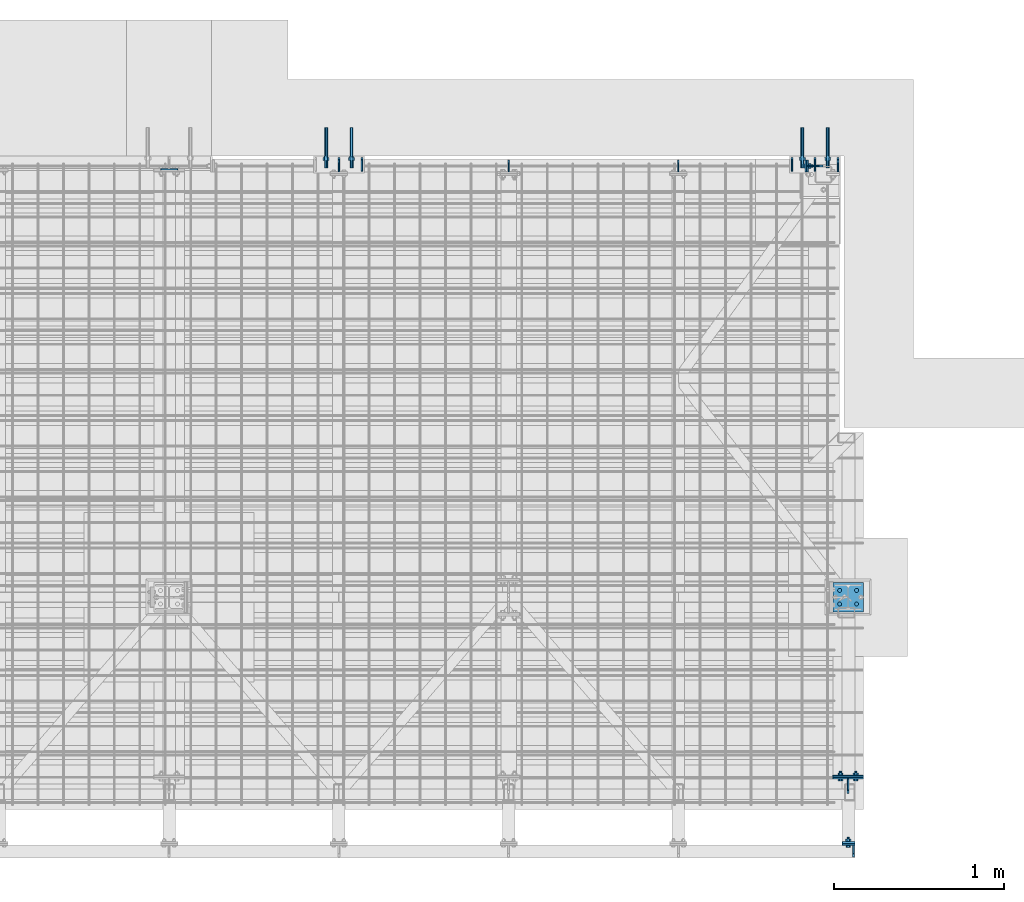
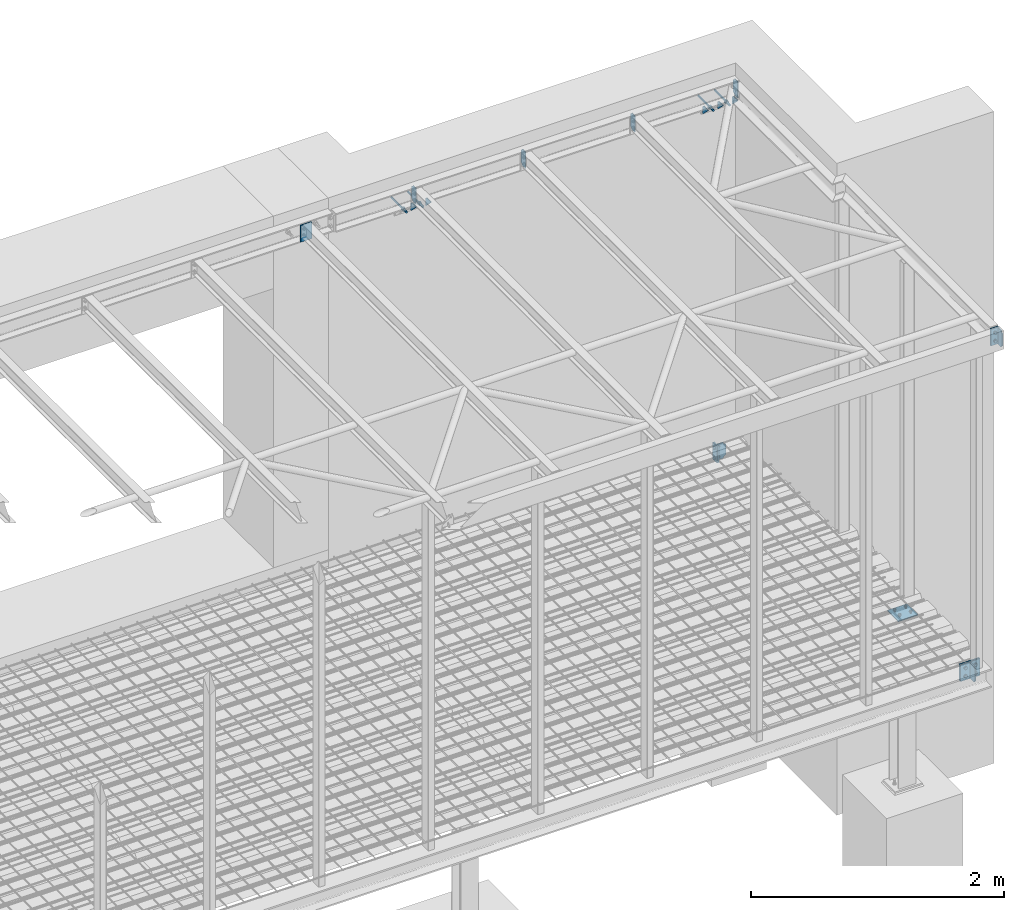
# One storey, part 25 of 26: 20 discrete accessories, 6 mechanical fasteners, 11 elements without a shape of their own.
"""IFC2X3 building model written with IfcOpenShell, lengths in millimetres."""

from ifc_helpers import new_model, si_unit, frame, frame_2d, origin_with_axes, origin_2d_with_axis, place, context, subcontext, project, spatial, polyline, circle_curve, parameter, trimmed, segment, composite_curve, circle, outline, extrude, source, transform, mapped, material, type_object, element, aggregate, save


model = new_model("IFC2X3")

# Units and contexts
model_context = context("Model", 3, precision=1e-05, world=origin_with_axes())
body_context = subcontext(model_context, "Body", "Model", "MODEL_VIEW")
ifc_project = project(units=[si_unit("LENGTHUNIT", "METRE", prefix="MILLI"), si_unit("AREAUNIT", "SQUARE_METRE"), si_unit("VOLUMEUNIT", "CUBIC_METRE"), si_unit("MASSUNIT", "GRAM", prefix="KILO"), si_unit("TIMEUNIT", "SECOND"), si_unit("PLANEANGLEUNIT", "RADIAN"), si_unit("SOLIDANGLEUNIT", "STERADIAN"), si_unit("THERMODYNAMICTEMPERATUREUNIT", "DEGREE_CELSIUS"), si_unit("LUMINOUSINTENSITYUNIT", "LUMEN")], contexts=[model_context])

# Site, building, storey
site_placement = place(None, origin_with_axes())
site = spatial("IfcSite", under=ifc_project, at=site_placement, Name="Undefined", CompositionType="ELEMENT")
building_placement = place(site_placement, origin_with_axes())
building = spatial("IfcBuilding", under=site, at=building_placement, Name="Undefined", CompositionType="ELEMENT")
storey_placement = place(building_placement, origin_with_axes())
storey = spatial("IfcBuildingStorey", under=building, at=storey_placement, Name="Undefined", CompositionType="ELEMENT", Elevation=0.0)

# Assembly, mechanical fastener
assembly_1_placement = place(storey_placement, origin_with_axes())
assembly_1 = element("IfcElementAssembly", 1, at=assembly_1_placement, inside=storey, Name="Steel Assembly", AssemblyPlace="NOTDEFINED", PredefinedType="RIGID_FRAME")
ifc_material_1 = material(Name="Undefined")
discrete_accessory_type_1 = type_object("IfcDiscreteAccessoryType", Name="Bolt assembly")
shared_shape_1 = source(origin_with_axes(), body_context, "Body", "SweptSolid", [
    extrude(circle(Radius=9.0, at=origin_2d_with_axis()), frame((0.0, -0.1, 0.0), z_axis=(0.0, 1.0, 0.0), x_axis=(1.0, 0.0, 0.0)), (0.0, 0.0, 1.0), 10.1),
    extrude(circle(Radius=9.0, at=origin_2d_with_axis()), frame((0.0, -9.9, 0.0), z_axis=(0.0, 1.0, 0.0), x_axis=(1.0, 0.0, 0.0)), (0.0, 0.0, 1.0), 10.0),
    extrude(outline(polyline([(13.85640646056, 0.0), (6.92820323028, 12.0000000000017), (-6.92820323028, 12.0000000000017), (-13.85640646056, 0.0), (-6.92820323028, -12.0000000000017), (6.92820323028, -12.0000000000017), (13.85640646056, 0.0)])), frame((0.0, -23.0, 0.0), z_axis=(0.0, 1.0, 0.0), x_axis=(1.0, 0.0, 0.0)), (0.0, 0.0, 1.0), 10.0),
    extrude(circle(Radius=8.0, at=origin_2d_with_axis()), frame((0.0, -13.0, 0.0), z_axis=(0.0, 1.0, 0.0), x_axis=(1.0, 0.0, 0.0)), (0.0, 0.0, 1.0), 50.0),
    extrude(circle(Radius=15.0, at=origin_2d_with_axis()), frame((0.0, -13.0, 0.0), z_axis=(0.0, 1.0, 0.0), x_axis=(1.0, 0.0, 0.0)), (0.0, 0.0, 1.0), 3.0),
    extrude(circle(Radius=15.0, at=origin_2d_with_axis()), frame((0.0, 10.0, 0.0), z_axis=(0.0, 1.0, 0.0), x_axis=(1.0, 0.0, 0.0)), (0.0, 0.0, 1.0), 3.0),
    extrude(outline(polyline([(15.4441197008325, 0.0), (7.72205985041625, 13.3750000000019), (-7.72205985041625, 13.3750000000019), (-15.4441197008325, 0.0), (-7.72205985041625, -13.3750000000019), (7.72205985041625, -13.3750000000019), (15.4441197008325, 0.0)])), frame((0.0, 13.0, 0.0), z_axis=(0.0, 1.0, 0.0), x_axis=(1.0, 0.0, 0.0)), (0.0, 0.0, 1.0), 13.0),
])
mechanical_fastener_1_placement = place(assembly_1_placement, frame((16005.0, 200.0, -250.0), z_axis=(0.0, 0.0, 1.0), x_axis=(1.0, 0.0, 0.0)))
mechanical_fastener_1 = element("IfcMechanicalFastener", 2, at=mechanical_fastener_1_placement, type_object=discrete_accessory_type_1, material=ifc_material_1, Name="Bolt assembly", NominalDiameter=16.0, NominalLength=50.0, context=body_context, shape_type="MappedRepresentation", body=[
    mapped(shared_shape_1, transform((0.0, 0.0, -40.0))),
    mapped(shared_shape_1, transform((90.0, 0.0, -40.0))),
    mapped(shared_shape_1, transform((0.0, 0.0, 40.0))),
    mapped(shared_shape_1, transform((90.0, 0.0, 40.0))),
])

# Assembly, discrete accessories
assembly_2_placement = place(storey_placement, origin_with_axes())
assembly_2 = element("IfcElementAssembly", 3, at=assembly_2_placement, inside=storey, Name="Steel Assembly", AssemblyPlace="NOTDEFINED", PredefinedType="RIGID_FRAME")
ifc_material_2 = material(Name="STEEL/S235JR")
discrete_accessory_type_2 = type_object("IfcDiscreteAccessoryType", Name="PLECH")
discrete_accessory_1_placement = place(assembly_2_placement, frame((13050.0, 3770.0, 3110.0), z_axis=(-1.0, 0.0, 0.0), x_axis=(0.0, 1.0, 0.0)))
discrete_accessory_1 = element("IfcDiscreteAccessory", 4, at=discrete_accessory_1_placement, type_object=discrete_accessory_type_2, material=ifc_material_2, Name="PLECH", ObjectType="PL8*80", context=body_context, shape_type="SweptSolid", body=[
    extrude(outline(composite_curve([segment(polyline([(0.0, 0.0), (65.0, 0.0)]), True, "CONTINUOUS"), segment(trimmed(circle_curve(frame_2d((80.0, 0.0), x_axis=(-1.0, 0.0)), 15.0), [parameter(0.0)], [parameter(4.71238898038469)], False, "PARAMETER"), True, "CONTINUOUS"), segment(polyline([(80.0, 15.0), (80.0, 80.0), (70.0, 80.0), (0.0, 10.0), (0.0, 0.0)]), True, "DISCONTINUOUS")], self_intersect=False)), frame((0.0, 0.0, -4.0), z_axis=(0.0, 0.0, 1.0), x_axis=(1.0, 0.0, 0.0)), (0.0, 0.0, 1.0), 8.0),
])
discrete_accessory_2_placement = place(assembly_2_placement, frame((13186.0, 3770.0, 3110.0), z_axis=(-1.0, 0.0, 0.0), x_axis=(0.0, 1.0, 0.0)))
discrete_accessory_2 = element("IfcDiscreteAccessory", 5, at=discrete_accessory_2_placement, type_object=discrete_accessory_type_2, material=ifc_material_2, Name="PLECH", ObjectType="PL8*80", context=body_context, shape_type="SweptSolid", body=[
    extrude(outline(composite_curve([segment(polyline([(0.0, 0.0), (65.0, 0.0)]), True, "CONTINUOUS"), segment(trimmed(circle_curve(frame_2d((80.0, 0.0), x_axis=(-1.0, 0.0)), 15.0), [parameter(0.0)], [parameter(4.71238898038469)], False, "PARAMETER"), True, "CONTINUOUS"), segment(polyline([(80.0, 15.0), (80.0, 80.0), (70.0, 80.0), (0.0, 10.0), (0.0, 0.0)]), True, "DISCONTINUOUS")], self_intersect=False)), frame((0.0, 0.0, -4.0), z_axis=(0.0, 0.0, 1.0), x_axis=(1.0, 0.0, 0.0)), (0.0, 0.0, 1.0), 8.0),
])

assembly_3_placement = place(storey_placement, origin_with_axes())
assembly_3 = element("IfcElementAssembly", 6, at=assembly_3_placement, inside=storey, Name="Steel Assembly", AssemblyPlace="NOTDEFINED", PredefinedType="RIGID_FRAME")
discrete_accessory_3_placement = place(assembly_3_placement, frame((15855.0, 3770.0, 3110.0), z_axis=(-1.0, 0.0, 0.0), x_axis=(0.0, 1.0, 0.0)))
discrete_accessory_3 = element("IfcDiscreteAccessory", 7, at=discrete_accessory_3_placement, type_object=discrete_accessory_type_2, material=ifc_material_2, Name="PLECH", ObjectType="PL8*80", context=body_context, shape_type="SweptSolid", body=[
    extrude(outline(composite_curve([segment(polyline([(0.0, 0.0), (65.0, 0.0)]), True, "CONTINUOUS"), segment(trimmed(circle_curve(frame_2d((80.0, 0.0), x_axis=(-1.0, 0.0)), 15.0), [parameter(0.0)], [parameter(4.71238898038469)], False, "PARAMETER"), True, "CONTINUOUS"), segment(polyline([(80.0, 15.0), (80.0, 80.0), (70.0, 80.0), (0.0, 10.0), (0.0, 0.0)]), True, "DISCONTINUOUS")], self_intersect=False)), frame((0.0, 0.0, -4.0), z_axis=(0.0, 0.0, 1.0), x_axis=(1.0, 0.0, 0.0)), (0.0, 0.0, 1.0), 8.0),
])
discrete_accessory_4_placement = place(assembly_3_placement, frame((15991.0, 3770.0, 3110.0), z_axis=(-1.0, 0.0, 0.0), x_axis=(0.0, 1.0, 0.0)))
discrete_accessory_4 = element("IfcDiscreteAccessory", 8, at=discrete_accessory_4_placement, type_object=discrete_accessory_type_2, material=ifc_material_2, Name="PLECH", ObjectType="PL8*80", context=body_context, shape_type="SweptSolid", body=[
    extrude(outline(composite_curve([segment(polyline([(0.0, 0.0), (65.0, 0.0)]), True, "CONTINUOUS"), segment(trimmed(circle_curve(frame_2d((80.0, 0.0), x_axis=(-1.0, 0.0)), 15.0), [parameter(0.0)], [parameter(4.71238898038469)], False, "PARAMETER"), True, "CONTINUOUS"), segment(polyline([(80.0, 15.0), (80.0, 80.0), (70.0, 80.0), (0.0, 10.0), (0.0, 0.0)]), True, "DISCONTINUOUS")], self_intersect=False)), frame((0.0, 0.0, -4.0), z_axis=(0.0, 0.0, 1.0), x_axis=(1.0, 0.0, 0.0)), (0.0, 0.0, 1.0), 8.0),
])
discrete_accessory_5_placement = place(assembly_3_placement, frame((15719.0, 3770.0, 3110.0), z_axis=(-1.0, 0.0, 0.0), x_axis=(0.0, 1.0, 0.0)))
discrete_accessory_5 = element("IfcDiscreteAccessory", 9, at=discrete_accessory_5_placement, type_object=discrete_accessory_type_2, material=ifc_material_2, Name="PLECH", ObjectType="PL8*80", context=body_context, shape_type="SweptSolid", body=[
    extrude(outline(composite_curve([segment(polyline([(0.0, 0.0), (65.0, 0.0)]), True, "CONTINUOUS"), segment(trimmed(circle_curve(frame_2d((80.0, 0.0), x_axis=(-1.0, 0.0)), 15.0), [parameter(0.0)], [parameter(4.71238898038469)], False, "PARAMETER"), True, "CONTINUOUS"), segment(polyline([(80.0, 15.0), (80.0, 80.0), (70.0, 80.0), (0.0, 10.0), (0.0, 0.0)]), True, "DISCONTINUOUS")], self_intersect=False)), frame((0.0, 0.0, -4.0), z_axis=(0.0, 0.0, 1.0), x_axis=(1.0, 0.0, 0.0)), (0.0, 0.0, 1.0), 8.0),
])

# Assembly, discrete accessory
assembly_4_placement = place(storey_placement, origin_with_axes())
assembly_4 = element("IfcElementAssembly", 10, at=assembly_4_placement, inside=storey, Name="Steel Assembly", AssemblyPlace="NOTDEFINED", PredefinedType="RIGID_FRAME")
discrete_accessory_6_placement = place(assembly_4_placement, frame((15990.5, 3765.0, 3289.5), z_axis=(-1.0, 0.0, 0.0), x_axis=(0.0, 1.0, 0.0)))
discrete_accessory_6 = element("IfcDiscreteAccessory", 11, at=discrete_accessory_6_placement, type_object=discrete_accessory_type_2, material=ifc_material_2, Name="PLECH", ObjectType="PL8*70", context=body_context, shape_type="SweptSolid", body=[
    extrude(outline(composite_curve([segment(polyline([(0.0, 0.0), (49.5, 0.0)]), True, "CONTINUOUS"), segment(trimmed(circle_curve(frame_2d((69.5, 0.0), x_axis=(-1.0, 0.0)), 20.0), [parameter(0.0)], [parameter(4.71238898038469)], False, "PARAMETER"), True, "CONTINUOUS"), segment(polyline([(69.5, 20.0), (69.5, 139.0)]), True, "CONTINUOUS"), segment(trimmed(circle_curve(frame_2d((69.5, 159.0), x_axis=(0.0, -1.0)), 20.0), [parameter(0.0)], [parameter(4.71238898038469)], False, "PARAMETER"), True, "CONTINUOUS"), segment(polyline([(49.5, 159.0), (-3.63797880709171e-12, 159.0), (0.0, 0.0)]), True, "DISCONTINUOUS")], self_intersect=False)), frame((0.0, 0.0, -4.0), z_axis=(0.0, 0.0, 1.0), x_axis=(1.0, 0.0, 0.0)), (0.0, 0.0, 1.0), 8.0),
])

# Assembly, discrete accessories
assembly_5_placement = place(storey_placement, origin_with_axes())
assembly_5 = element("IfcElementAssembly", 12, at=assembly_5_placement, inside=storey, Name="Steel Assembly", AssemblyPlace="NOTDEFINED", PredefinedType="RIGID_FRAME")
discrete_accessory_7_placement = place(assembly_5_placement, frame((15815.0, 3799.75, -174.0), z_axis=(0.0, 1.0, 0.0), x_axis=(1.0, 0.0, 0.0)))
discrete_accessory_7 = element("IfcDiscreteAccessory", 13, at=discrete_accessory_7_placement, type_object=discrete_accessory_type_2, material=ifc_material_2, Name="PLECH", ObjectType="PL8*86", context=body_context, shape_type="SweptSolid", body=[
    extrude(outline(composite_curve([segment(polyline([(0.0, 0.0), (60.5, 0.0)]), True, "CONTINUOUS"), segment(trimmed(circle_curve(frame_2d((85.5, 0.0), x_axis=(-1.0, 0.0)), 25.0), [parameter(0.0)], [parameter(4.71238898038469)], False, "PARAMETER"), True, "CONTINUOUS"), segment(polyline([(85.5, 25.0), (85.5, 127.0)]), True, "CONTINUOUS"), segment(trimmed(circle_curve(frame_2d((85.5, 152.0), x_axis=(0.0, -1.0)), 25.0), [parameter(0.0)], [parameter(4.71238898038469)], False, "PARAMETER"), True, "CONTINUOUS"), segment(polyline([(60.5, 152.0), (0.0, 152.0), (0.0, 0.0)]), True, "DISCONTINUOUS")], self_intersect=False)), frame((0.0, 0.0, -4.0), z_axis=(0.0, 0.0, 1.0), x_axis=(1.0, 0.0, 0.0)), (0.0, 0.0, 1.0), 8.0),
])
discrete_accessory_8_placement = place(assembly_5_placement, frame((15810.0, 3765.0, -170.0), z_axis=(-1.0, 0.0, 0.0), x_axis=(0.0, 1.0, 0.0)))
discrete_accessory_8 = element("IfcDiscreteAccessory", 14, at=discrete_accessory_8_placement, type_object=discrete_accessory_type_2, material=ifc_material_2, Name="PLECH", ObjectType="PL10*70", context=body_context, shape_type="SweptSolid", body=[
    extrude(outline(polyline([(0.0, 0.0), (70.0, 4.54747350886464e-13), (70.0, 160.0), (0.0, 160.0), (0.0, 0.0)])), frame((0.0, 0.0, -5.0), z_axis=(0.0, 0.0, 1.0), x_axis=(1.0, 0.0, 0.0)), (0.0, 0.0, 1.0), 10.0),
])

# Assembly, discrete accessory
assembly_6_placement = place(storey_placement, origin_with_axes())
assembly_6 = element("IfcElementAssembly", 15, at=assembly_6_placement, inside=storey, Name="Steel Assembly", AssemblyPlace="NOTDEFINED", PredefinedType="RIGID_FRAME")
discrete_accessory_9_placement = place(assembly_6_placement, frame((16080.5, -200.0, 3289.5), z_axis=(1.0, 0.0, 0.0), x_axis=(0.0, -1.0, 0.0)))
discrete_accessory_9 = element("IfcDiscreteAccessory", 16, at=discrete_accessory_9_placement, type_object=discrete_accessory_type_2, material=ifc_material_2, Name="PLECH", ObjectType="PL8*70", context=body_context, shape_type="SweptSolid", body=[
    extrude(outline(composite_curve([segment(polyline([(0.0, 0.0), (49.5, 0.0)]), True, "CONTINUOUS"), segment(trimmed(circle_curve(frame_2d((69.5, 0.0), x_axis=(-1.0, 0.0)), 20.0), [parameter(0.0)], [parameter(4.71238898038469)], False, "PARAMETER"), True, "CONTINUOUS"), segment(polyline([(69.5, 20.0), (69.5, 139.0)]), True, "CONTINUOUS"), segment(trimmed(circle_curve(frame_2d((69.5, 159.0), x_axis=(0.0, -1.0)), 20.0), [parameter(0.0)], [parameter(4.71238898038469)], False, "PARAMETER"), True, "CONTINUOUS"), segment(polyline([(49.5, 159.0), (-3.63797880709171e-12, 159.0), (0.0, 0.0)]), True, "DISCONTINUOUS")], self_intersect=False)), frame((0.0, 0.0, -4.0), z_axis=(0.0, 0.0, 1.0), x_axis=(1.0, 0.0, 0.0)), (0.0, 0.0, 1.0), 8.0),
])

assembly_7_placement = place(storey_placement, origin_with_axes())
assembly_7 = element("IfcElementAssembly", 17, at=assembly_7_placement, inside=storey, Name="Steel Assembly", AssemblyPlace="NOTDEFINED", PredefinedType="RIGID_FRAME")
discrete_accessory_10_placement = place(assembly_7_placement, frame((16015.0, -185.0, 3130.0), z_axis=(0.0, 1.0, 0.0), x_axis=(0.0, 0.0, 1.0)))
discrete_accessory_10 = element("IfcDiscreteAccessory", 18, at=discrete_accessory_10_placement, type_object=discrete_accessory_type_2, material=ifc_material_2, Name="PLECH", ObjectType="PL10*75", context=body_context, shape_type="SweptSolid", body=[
    extrude(outline(polyline([(0.0, 0.0), (160.0, 0.0), (160.0, 75.0), (0.0, 75.0), (0.0, 0.0)])), frame((0.0, 0.0, -5.0), z_axis=(0.0, 0.0, 1.0), x_axis=(1.0, 0.0, 0.0)), (0.0, 0.0, 1.0), 10.0),
])
aggregate(assembly_7, [discrete_accessory_10])

# Discrete accessory
discrete_accessory_11_placement = place(assembly_6_placement, frame((16015.0, -195.0, 3130.0), z_axis=(0.0, 1.0, 0.0), x_axis=(0.0, 0.0, 1.0)))
discrete_accessory_11 = element("IfcDiscreteAccessory", 19, at=discrete_accessory_11_placement, type_object=discrete_accessory_type_2, material=ifc_material_2, Name="PLECH", ObjectType="PL10*75", context=body_context, shape_type="SweptSolid", body=[
    extrude(outline(polyline([(0.0, 0.0), (160.0, 0.0), (160.0, 75.0), (0.0, 75.0), (0.0, 0.0)])), frame((0.0, 0.0, -5.0), z_axis=(0.0, 0.0, 1.0), x_axis=(1.0, 0.0, 0.0)), (0.0, 0.0, 1.0), 10.0),
])

# Assembly, discrete accessory
assembly_8_placement = place(storey_placement, origin_with_axes())
assembly_8 = element("IfcElementAssembly", 20, at=assembly_8_placement, inside=storey, Name="Steel Assembly", AssemblyPlace="NOTDEFINED", PredefinedType="RIGID_FRAME")
discrete_accessory_12_placement = place(assembly_8_placement, frame((16140.0, 1346.0, -345.0), z_axis=(0.0, 0.0, 1.0), x_axis=(-1.0, 0.0, 0.0)))
discrete_accessory_12 = element("IfcDiscreteAccessory", 21, at=discrete_accessory_12_placement, type_object=discrete_accessory_type_2, material=ifc_material_2, Name="PLECH", ObjectType="PL10*172", context=body_context, shape_type="SweptSolid", body=[
    extrude(outline(polyline([(0.0, 0.0), (180.0, 0.0), (180.0, 172.0), (0.0, 172.0), (0.0, 0.0)])), frame((0.0, 0.0, -5.0), z_axis=(0.0, 0.0, 1.0), x_axis=(1.0, 0.0, 0.0)), (0.0, 0.0, 1.0), 10.0),
])

# Discrete accessory
discrete_accessory_13_placement = place(assembly_1_placement, frame((15960.0, 195.0, -168.0), z_axis=(0.0, 1.0, 0.0), x_axis=(1.0, 0.0, 0.0)))
discrete_accessory_13 = element("IfcDiscreteAccessory", 22, at=discrete_accessory_13_placement, type_object=discrete_accessory_type_2, material=ifc_material_2, Name="PLECH", ObjectType="PL10*164", context=body_context, shape_type="SweptSolid", body=[
    extrude(outline(polyline([(0.0, 0.0), (180.0, 0.0), (180.0, 164.0), (0.0, 164.0), (0.0, 0.0)])), frame((0.0, 0.0, -5.0), z_axis=(0.0, 0.0, 1.0), x_axis=(1.0, 0.0, 0.0)), (0.0, 0.0, 1.0), 10.0),
])

discrete_accessory_14_placement = place(assembly_1_placement, frame((16050.0, 190.0, -174.0), z_axis=(1.0, 0.0, 0.0), x_axis=(0.0, -1.0, 0.0)))
discrete_accessory_14 = element("IfcDiscreteAccessory", 23, at=discrete_accessory_14_placement, type_object=discrete_accessory_type_2, material=ifc_material_2, Name="PLECH", ObjectType="PL8*86", context=body_context, shape_type="SweptSolid", body=[
    extrude(outline(composite_curve([segment(polyline([(0.0, 0.0), (65.75, 0.0)]), True, "CONTINUOUS"), segment(trimmed(circle_curve(frame_2d((85.75, 0.0), x_axis=(-1.0, 0.0)), 20.0), [parameter(0.0)], [parameter(4.71238898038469)], False, "PARAMETER"), True, "CONTINUOUS"), segment(polyline([(85.75, 20.0), (85.75, 132.0)]), True, "CONTINUOUS"), segment(trimmed(circle_curve(frame_2d((85.75, 152.0), x_axis=(0.0, -1.0)), 20.0), [parameter(0.0)], [parameter(4.71238898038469)], False, "PARAMETER"), True, "CONTINUOUS"), segment(polyline([(65.75, 152.0), (0.0, 152.0), (0.0, 0.0)]), True, "DISCONTINUOUS")], self_intersect=False)), frame((0.0, 0.0, -4.0), z_axis=(0.0, 0.0, 1.0), x_axis=(1.0, 0.0, 0.0)), (0.0, 0.0, 1.0), 8.0),
])

aggregate(assembly_1, [mechanical_fastener_1, discrete_accessory_13, discrete_accessory_14])

# Assembly, discrete accessory
assembly_9_placement = place(storey_placement, origin_with_axes())
assembly_9 = element("IfcElementAssembly", 24, at=assembly_9_placement, inside=storey, Name="Steel Assembly", AssemblyPlace="NOTDEFINED", PredefinedType="RIGID_FRAME")
discrete_accessory_15_placement = place(assembly_9_placement, frame((15960.0, 205.0, -168.0), z_axis=(0.0, 1.0, 0.0), x_axis=(1.0, 0.0, 0.0)))
discrete_accessory_15 = element("IfcDiscreteAccessory", 25, at=discrete_accessory_15_placement, type_object=discrete_accessory_type_2, material=ifc_material_2, Name="PLECH", ObjectType="PL10*164", context=body_context, shape_type="SweptSolid", body=[
    extrude(outline(polyline([(0.0, 0.0), (180.0, 0.0), (180.0, 164.0), (0.0, 164.0), (0.0, 0.0)])), frame((0.0, 0.0, -5.0), z_axis=(0.0, 0.0, 1.0), x_axis=(1.0, 0.0, 0.0)), (0.0, 0.0, 1.0), 10.0),
])
aggregate(assembly_9, [discrete_accessory_15])

assembly_10_placement = place(storey_placement, origin_with_axes())
assembly_10 = element("IfcElementAssembly", 26, at=assembly_10_placement, inside=storey, Name="Steel Assembly", AssemblyPlace="NOTDEFINED", PredefinedType="RIGID_FRAME")
discrete_accessory_16_placement = place(assembly_10_placement, frame((15801.0, 3765.0, -170.0), z_axis=(-1.0, 0.0, 0.0), x_axis=(0.0, 1.0, 0.0)))
discrete_accessory_16 = element("IfcDiscreteAccessory", 27, at=discrete_accessory_16_placement, type_object=discrete_accessory_type_2, material=ifc_material_2, Name="PLECH", ObjectType="PL8*70", context=body_context, shape_type="SweptSolid", body=[
    extrude(outline(polyline([(0.0, 0.0), (70.0, 4.54747350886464e-13), (70.0, 160.0), (0.0, 160.0), (0.0, 0.0)])), frame((0.0, 0.0, -4.0), z_axis=(0.0, 0.0, 1.0), x_axis=(1.0, 0.0, 0.0)), (0.0, 0.0, 1.0), 8.0),
])
aggregate(assembly_10, [discrete_accessory_16])

# Discrete accessory
discrete_accessory_17_placement = place(assembly_4_placement, frame((15050.0, 3765.0, 3289.5), z_axis=(-1.0, 0.0, 0.0), x_axis=(0.0, 1.0, 0.0)))
discrete_accessory_17 = element("IfcDiscreteAccessory", 28, at=discrete_accessory_17_placement, type_object=discrete_accessory_type_2, material=ifc_material_2, Name="PLECH", ObjectType="PL6*70", context=body_context, shape_type="SweptSolid", body=[
    extrude(outline(composite_curve([segment(polyline([(0.0, 0.0), (49.5, 0.0)]), True, "CONTINUOUS"), segment(trimmed(circle_curve(frame_2d((69.5, 0.0), x_axis=(-1.0, 0.0)), 20.0), [parameter(0.0)], [parameter(4.71238898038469)], False, "PARAMETER"), True, "CONTINUOUS"), segment(polyline([(69.5, 20.0), (69.5, 139.0)]), True, "CONTINUOUS"), segment(trimmed(circle_curve(frame_2d((69.5, 159.0), x_axis=(0.0, -1.0)), 20.0), [parameter(0.0)], [parameter(4.71238898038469)], False, "PARAMETER"), True, "CONTINUOUS"), segment(polyline([(49.5, 159.0), (-3.63797880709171e-12, 159.0), (0.0, 0.0)]), True, "DISCONTINUOUS")], self_intersect=False)), frame((0.0, 0.0, -3.0), z_axis=(0.0, 0.0, 1.0), x_axis=(1.0, 0.0, 0.0)), (0.0, 0.0, 1.0), 6.0),
])

discrete_accessory_18_placement = place(assembly_4_placement, frame((14050.0, 3765.0, 3289.5), z_axis=(-1.0, 0.0, 0.0), x_axis=(0.0, 1.0, 0.0)))
discrete_accessory_18 = element("IfcDiscreteAccessory", 29, at=discrete_accessory_18_placement, type_object=discrete_accessory_type_2, material=ifc_material_2, Name="PLECH", ObjectType="PL6*70", context=body_context, shape_type="SweptSolid", body=[
    extrude(outline(composite_curve([segment(polyline([(0.0, 0.0), (49.5, 0.0)]), True, "CONTINUOUS"), segment(trimmed(circle_curve(frame_2d((69.5, 0.0), x_axis=(-1.0, 0.0)), 20.0), [parameter(0.0)], [parameter(4.71238898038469)], False, "PARAMETER"), True, "CONTINUOUS"), segment(polyline([(69.5, 20.0), (69.5, 139.0)]), True, "CONTINUOUS"), segment(trimmed(circle_curve(frame_2d((69.5, 159.0), x_axis=(0.0, -1.0)), 20.0), [parameter(0.0)], [parameter(4.71238898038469)], False, "PARAMETER"), True, "CONTINUOUS"), segment(polyline([(49.5, 159.0), (-3.63797880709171e-12, 159.0), (0.0, 0.0)]), True, "DISCONTINUOUS")], self_intersect=False)), frame((0.0, 0.0, -3.0), z_axis=(0.0, 0.0, 1.0), x_axis=(1.0, 0.0, 0.0)), (0.0, 0.0, 1.0), 6.0),
])

discrete_accessory_19_placement = place(assembly_4_placement, frame((13050.0, 3765.0, 3289.5), z_axis=(-1.0, 0.0, 0.0), x_axis=(0.0, 1.0, 0.0)))
discrete_accessory_19 = element("IfcDiscreteAccessory", 30, at=discrete_accessory_19_placement, type_object=discrete_accessory_type_2, material=ifc_material_2, Name="PLECH", ObjectType="PL6*70", context=body_context, shape_type="SweptSolid", body=[
    extrude(outline(composite_curve([segment(polyline([(0.0, 0.0), (49.5, 0.0)]), True, "CONTINUOUS"), segment(trimmed(circle_curve(frame_2d((69.5, 0.0), x_axis=(-1.0, 0.0)), 20.0), [parameter(0.0)], [parameter(4.71238898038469)], False, "PARAMETER"), True, "CONTINUOUS"), segment(polyline([(69.5, 20.0), (69.5, 139.0)]), True, "CONTINUOUS"), segment(trimmed(circle_curve(frame_2d((69.5, 159.0), x_axis=(0.0, -1.0)), 20.0), [parameter(0.0)], [parameter(4.71238898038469)], False, "PARAMETER"), True, "CONTINUOUS"), segment(polyline([(49.5, 159.0), (-3.63797880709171e-12, 159.0), (0.0, 0.0)]), True, "DISCONTINUOUS")], self_intersect=False)), frame((0.0, 0.0, -3.0), z_axis=(0.0, 0.0, 1.0), x_axis=(1.0, 0.0, 0.0)), (0.0, 0.0, 1.0), 6.0),
])

aggregate(assembly_4, [discrete_accessory_6, discrete_accessory_17, discrete_accessory_18, discrete_accessory_19])

# Assembly, discrete accessory
assembly_11_placement = place(storey_placement, origin_with_axes())
assembly_11 = element("IfcElementAssembly", 31, at=assembly_11_placement, inside=storey, Name="Steel Assembly", AssemblyPlace="NOTDEFINED", PredefinedType="RIGID_FRAME")
discrete_accessory_20_placement = place(assembly_11_placement, frame((12000.0, 3780.0, 3128.0), z_axis=(0.0, 1.0, 0.0), x_axis=(0.0, 0.0, 1.0)))
discrete_accessory_20 = element("IfcDiscreteAccessory", 32, at=discrete_accessory_20_placement, type_object=discrete_accessory_type_2, material=ifc_material_2, Name="PLECH", ObjectType="PL10*100", context=body_context, shape_type="SweptSolid", body=[
    extrude(outline(polyline([(0.0, 0.0), (164.0, 4.54747350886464e-13), (164.0, 100.0), (-9.09494701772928e-13, 100.0), (0.0, 0.0)])), frame((0.0, 0.0, -5.0), z_axis=(0.0, 0.0, 1.0), x_axis=(1.0, 0.0, 0.0)), (0.0, 0.0, 1.0), 10.0),
])
aggregate(assembly_11, [discrete_accessory_20])

# Mechanical fastener
shared_shape_2 = source(origin_with_axes(), body_context, "Body", "SweptSolid", [
    extrude(circle(Radius=9.0, at=origin_2d_with_axis()), frame((0.0, -10.1, 0.0), z_axis=(0.0, 1.0, 0.0), x_axis=(1.0, 0.0, 0.0)), (0.0, 0.0, 1.0), 10.1),
    extrude(circle(Radius=9.0, at=origin_2d_with_axis()), frame((0.0, -19.9, 0.0), z_axis=(0.0, 1.0, 0.0), x_axis=(1.0, 0.0, 0.0)), (0.0, 0.0, 1.0), 10.0),
    extrude(outline(polyline([(13.85640646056, 0.0), (6.92820323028, 12.0000000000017), (-6.92820323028, 12.0000000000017), (-13.85640646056, 0.0), (-6.92820323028, -12.0000000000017), (6.92820323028, -12.0000000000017), (13.85640646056, 0.0)])), frame((0.0, -33.0, 0.0), z_axis=(0.0, 1.0, 0.0), x_axis=(1.0, 0.0, 0.0)), (0.0, 0.0, 1.0), 10.0),
    extrude(circle(Radius=8.0, at=origin_2d_with_axis()), frame((0.0, -23.0, 0.0), z_axis=(0.0, 1.0, 0.0), x_axis=(1.0, 0.0, 0.0)), (0.0, 0.0, 1.0), 50.0),
    extrude(circle(Radius=15.0, at=origin_2d_with_axis()), frame((0.0, -23.0, 0.0), z_axis=(0.0, 1.0, 0.0), x_axis=(1.0, 0.0, 0.0)), (0.0, 0.0, 1.0), 3.0),
    extrude(circle(Radius=15.0, at=origin_2d_with_axis()), frame((0.0, 0.0, 0.0), z_axis=(0.0, 1.0, 0.0), x_axis=(1.0, 0.0, 0.0)), (0.0, 0.0, 1.0), 3.0),
    extrude(outline(polyline([(15.4441197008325, 0.0), (7.72205985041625, 13.3750000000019), (-7.72205985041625, 13.3750000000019), (-15.4441197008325, 0.0), (-7.72205985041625, -13.3750000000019), (7.72205985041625, -13.3750000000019), (15.4441197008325, 0.0)])), frame((0.0, 3.0, 0.0), z_axis=(0.0, 1.0, 0.0), x_axis=(1.0, 0.0, 0.0)), (0.0, 0.0, 1.0), 13.0),
])
mechanical_fastener_2_placement = place(assembly_6_placement, frame((16050.0, -180.0, 3210.0), z_axis=(0.0, 0.0, 1.0), x_axis=(1.0, 0.0, 0.0)))
mechanical_fastener_2 = element("IfcMechanicalFastener", 33, at=mechanical_fastener_2_placement, type_object=discrete_accessory_type_1, material=ifc_material_1, Name="Bolt assembly", NominalDiameter=16.0, NominalLength=50.0, context=body_context, shape_type="MappedRepresentation", body=[
    mapped(shared_shape_2, transform((0.0, 0.0, -40.0))),
    mapped(shared_shape_2, transform((0.0, 0.0, 40.0))),
])

aggregate(assembly_6, [mechanical_fastener_2, discrete_accessory_9, discrete_accessory_11])

shared_shape_3 = source(origin_with_axes(), body_context, "Body", "SweptSolid", [
    extrude(circle(Radius=11.0, at=origin_2d_with_axis()), frame((0.0, 0.0, 0.0), z_axis=(0.0, 1.0, 0.0), x_axis=(1.0, 0.0, 0.0)), (0.0, 0.0, 1.0), 10.1),
    extrude(outline(polyline([(9.81495457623, 0.0), (4.907477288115, 8.5000000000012), (-4.907477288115, 8.5000000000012), (-9.81495457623, 0.0), (-4.907477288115, -8.5000000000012), (4.907477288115, -8.5000000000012), (9.81495457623, 0.0)])), frame((0.0, -168.0, 0.0), z_axis=(0.0, 1.0, 0.0), x_axis=(1.0, 0.0, 0.0)), (0.0, 0.0, 1.0), 168.0),
    extrude(circle(Radius=10.0, at=origin_2d_with_axis()), frame((0.0, 0.0, 0.0), z_axis=(0.0, 1.0, 0.0), x_axis=(1.0, 0.0, 0.0)), (0.0, 0.0, 1.0), 72.0),
    extrude(circle(Radius=18.5, at=origin_2d_with_axis()), frame((0.0, 10.0, 0.0), z_axis=(0.0, 1.0, 0.0), x_axis=(1.0, 0.0, 0.0)), (0.0, 0.0, 1.0), 3.0),
    extrude(outline(polyline([(17.3205080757, 0.0), (8.66025403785, 15.0000000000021), (-8.66025403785, 15.0000000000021), (-17.3205080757, 0.0), (-8.66025403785, -15.0000000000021), (8.66025403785, -15.0000000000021), (17.3205080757, 0.0)])), frame((0.0, 13.0, 0.0), z_axis=(0.0, 1.0, 0.0), x_axis=(1.0, 0.0, 0.0)), (0.0, 0.0, 1.0), 16.0),
])
mechanical_fastener_3_placement = place(assembly_3_placement, frame((15780.0, 3860.0, 3070.0), z_axis=(0.0, 0.0, -1.0), x_axis=(1.0, 0.0, 0.0)))
mechanical_fastener_3 = element("IfcMechanicalFastener", 34, at=mechanical_fastener_3_placement, type_object=discrete_accessory_type_1, material=ifc_material_1, Name="Bolt assembly", NominalDiameter=20.0, NominalLength=72.0, context=body_context, shape_type="MappedRepresentation", body=[
    mapped(shared_shape_3, transform((0.0, 0.0, 0.0))),
    mapped(shared_shape_3, transform((150.0, 0.0, 0.0))),
])

aggregate(assembly_3, [discrete_accessory_3, discrete_accessory_4, discrete_accessory_5, mechanical_fastener_3])

mechanical_fastener_4_placement = place(assembly_2_placement, frame((12975.0, 3860.0, 3070.0), z_axis=(0.0, 0.0, -1.0), x_axis=(1.0, 0.0, 0.0)))
mechanical_fastener_4 = element("IfcMechanicalFastener", 35, at=mechanical_fastener_4_placement, type_object=discrete_accessory_type_1, material=ifc_material_1, Name="Bolt assembly", NominalDiameter=20.0, NominalLength=72.0, context=body_context, shape_type="MappedRepresentation", body=[
    mapped(shared_shape_3, transform((0.0, 0.0, 0.0))),
    mapped(shared_shape_3, transform((150.0, 0.0, 0.0))),
])

aggregate(assembly_2, [discrete_accessory_1, discrete_accessory_2, mechanical_fastener_4])

shared_shape_4 = source(origin_with_axes(), body_context, "Body", "SweptSolid", [
    extrude(circle(Radius=6.5, at=origin_2d_with_axis()), frame((0.0, -13.9, 0.0), z_axis=(0.0, 1.0, 0.0), x_axis=(1.0, 0.0, 0.0)), (0.0, 0.0, 1.0), 14.0),
    extrude(circle(Radius=6.5, at=origin_2d_with_axis()), frame((0.0, -0.1, 0.0), z_axis=(0.0, 1.0, 0.0), x_axis=(1.0, 0.0, 0.0)), (0.0, 0.0, 1.0), 10.1),
    extrude(outline(polyline([(10.39230484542, 0.0), (5.19615242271, 9.00000000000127), (-5.19615242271, 9.00000000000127), (-10.39230484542, 0.0), (-5.19615242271, -9.00000000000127), (5.19615242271, -9.00000000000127), (10.39230484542, 0.0)])), frame((0.0, -24.0, 0.0), z_axis=(0.0, 1.0, 0.0), x_axis=(1.0, 0.0, 0.0)), (0.0, 0.0, 1.0), 7.5),
    extrude(circle(Radius=6.0, at=origin_2d_with_axis()), frame((0.0, -16.5, 0.0), z_axis=(0.0, 1.0, 0.0), x_axis=(1.0, 0.0, 0.0)), (0.0, 0.0, 1.0), 45.0),
    extrude(circle(Radius=12.0, at=origin_2d_with_axis()), frame((0.0, -16.5, 0.0), z_axis=(0.0, 1.0, 0.0), x_axis=(1.0, 0.0, 0.0)), (0.0, 0.0, 1.0), 2.5),
    extrude(circle(Radius=12.0, at=origin_2d_with_axis()), frame((0.0, 10.0, 0.0), z_axis=(0.0, 1.0, 0.0), x_axis=(1.0, 0.0, 0.0)), (0.0, 0.0, 1.0), 2.5),
    extrude(outline(polyline([(10.96965511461, 0.0), (5.484827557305, 9.50000000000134), (-5.484827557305, 9.50000000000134), (-10.96965511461, 0.0), (-5.484827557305, -9.50000000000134), (5.484827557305, -9.50000000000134), (10.96965511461, 0.0)])), frame((0.0, 12.5, 0.0), z_axis=(0.0, 1.0, 0.0), x_axis=(1.0, 0.0, 0.0)), (0.0, 0.0, 1.0), 10.0),
])
mechanical_fastener_5_placement = place(assembly_8_placement, frame((16000.0, 1260.0, -340.0), z_axis=(0.0, 1.0, 0.0), x_axis=(1.0, 0.0, 0.0)))
mechanical_fastener_5 = element("IfcMechanicalFastener", 36, at=mechanical_fastener_5_placement, type_object=discrete_accessory_type_1, material=ifc_material_1, Name="Bolt assembly", NominalDiameter=12.0, NominalLength=45.0, context=body_context, shape_type="MappedRepresentation", body=[
    mapped(shared_shape_4, transform((0.0, 0.0, -40.0))),
    mapped(shared_shape_4, transform((100.0, 0.0, -40.0))),
    mapped(shared_shape_4, transform((0.0, 0.0, 40.0))),
    mapped(shared_shape_4, transform((100.0, 0.0, 40.0))),
])

aggregate(assembly_8, [mechanical_fastener_5, discrete_accessory_12])

shared_shape_5 = source(origin_with_axes(), body_context, "Body", "SweptSolid", [
    extrude(circle(Radius=9.0, at=origin_2d_with_axis()), frame((0.0, -7.9, 0.0), z_axis=(0.0, 1.0, 0.0), x_axis=(1.0, 0.0, 0.0)), (0.0, 0.0, 1.0), 8.0),
    extrude(circle(Radius=9.0, at=origin_2d_with_axis()), frame((0.0, -0.1, 0.0), z_axis=(0.0, 1.0, 0.0), x_axis=(1.0, 0.0, 0.0)), (0.0, 0.0, 1.0), 10.1),
    extrude(outline(polyline([(13.85640646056, 0.0), (6.92820323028, 12.0000000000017), (-6.92820323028, 12.0000000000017), (-13.85640646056, 0.0), (-6.92820323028, -12.0000000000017), (6.92820323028, -12.0000000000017), (13.85640646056, 0.0)])), frame((0.0, -21.0, 0.0), z_axis=(0.0, 1.0, 0.0), x_axis=(1.0, 0.0, 0.0)), (0.0, 0.0, 1.0), 10.0),
    extrude(circle(Radius=8.0, at=origin_2d_with_axis()), frame((0.0, -11.0, 0.0), z_axis=(0.0, 1.0, 0.0), x_axis=(1.0, 0.0, 0.0)), (0.0, 0.0, 1.0), 50.0),
    extrude(circle(Radius=15.0, at=origin_2d_with_axis()), frame((0.0, -11.0, 0.0), z_axis=(0.0, 1.0, 0.0), x_axis=(1.0, 0.0, 0.0)), (0.0, 0.0, 1.0), 3.0),
    extrude(circle(Radius=15.0, at=origin_2d_with_axis()), frame((0.0, 10.0, 0.0), z_axis=(0.0, 1.0, 0.0), x_axis=(1.0, 0.0, 0.0)), (0.0, 0.0, 1.0), 3.0),
    extrude(outline(polyline([(15.4441197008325, 0.0), (7.72205985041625, 13.3750000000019), (-7.72205985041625, 13.3750000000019), (-15.4441197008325, 0.0), (-7.72205985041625, -13.3750000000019), (7.72205985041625, -13.3750000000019), (15.4441197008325, 0.0)])), frame((0.0, 13.0, 0.0), z_axis=(0.0, 1.0, 0.0), x_axis=(1.0, 0.0, 0.0)), (0.0, 0.0, 1.0), 13.0),
])
mechanical_fastener_6_placement = place(assembly_5_placement, frame((15805.0, 3800.0, -200.0), z_axis=(0.0, -1.0, 0.0), x_axis=(0.0, 0.0, -1.0)))
mechanical_fastener_6 = element("IfcMechanicalFastener", 37, at=mechanical_fastener_6_placement, type_object=discrete_accessory_type_1, material=ifc_material_1, Name="Bolt assembly", NominalDiameter=16.0, NominalLength=50.0, context=body_context, shape_type="MappedRepresentation", body=[
    mapped(shared_shape_5, transform((0.0, 0.0, 0.0))),
    mapped(shared_shape_5, transform((100.0, 0.0, 0.0))),
])

aggregate(assembly_5, [mechanical_fastener_6, discrete_accessory_7, discrete_accessory_8])

save(model, "model.ifc")
